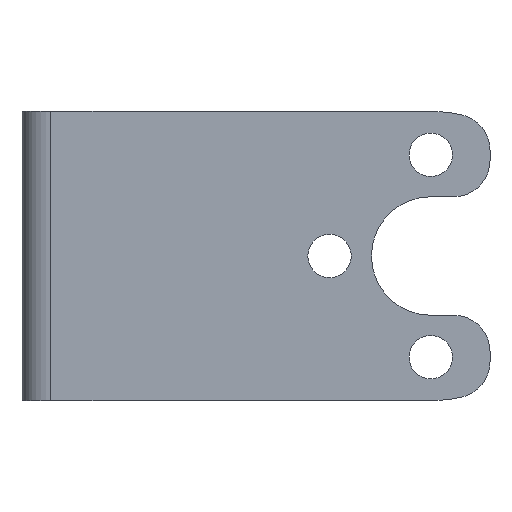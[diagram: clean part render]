
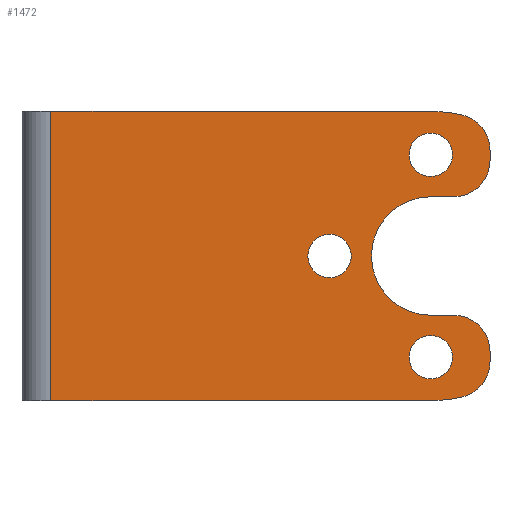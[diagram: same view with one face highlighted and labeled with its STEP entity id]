
A CAD part, front view. The second image highlights one B-rep face of the part: STEP entity #1472.
In plain terms, the highlighted planar face has unit normal (0, -1, 0).
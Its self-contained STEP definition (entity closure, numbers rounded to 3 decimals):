
#418=CARTESIAN_POINT('',(44.8,-52.05,0.));
#419=DIRECTION('',(0.,-1.,0.));
#420=DIRECTION('',(0.,0.,1.));
#421=AXIS2_PLACEMENT_3D('',#418,#419,#420);
#423=CARTESIAN_POINT('',(44.8,-52.05,0.));
#424=DIRECTION('',(0.,-1.,0.));
#425=DIRECTION('',(0.,0.,-1.));
#426=AXIS2_PLACEMENT_3D('',#423,#424,#425);
#428=CARTESIAN_POINT('',(51.8,-52.05,7.));
#429=DIRECTION('',(0.,-1.,0.));
#430=DIRECTION('',(0.,0.,1.));
#431=AXIS2_PLACEMENT_3D('',#428,#429,#430);
#433=CARTESIAN_POINT('',(51.8,-52.05,7.));
#434=DIRECTION('',(0.,-1.,0.));
#435=DIRECTION('',(0.,0.,-1.));
#436=AXIS2_PLACEMENT_3D('',#433,#434,#435);
#438=CARTESIAN_POINT('',(51.8,-52.05,-7.));
#439=DIRECTION('',(0.,-1.,0.));
#440=DIRECTION('',(0.,0.,1.));
#441=AXIS2_PLACEMENT_3D('',#438,#439,#440);
#443=CARTESIAN_POINT('',(51.8,-52.05,-7.));
#444=DIRECTION('',(0.,-1.,0.));
#445=DIRECTION('',(0.,0.,-1.));
#446=AXIS2_PLACEMENT_3D('',#443,#444,#445);
#448=CARTESIAN_POINT('',(53.4,-52.05,7.327));
#449=DIRECTION('',(0.,-1.,0.));
#450=DIRECTION('',(1.,0.,0.));
#451=AXIS2_PLACEMENT_3D('',#448,#449,#450);
#453=DIRECTION('',(0.,0.,-1.));
#454=VECTOR('',#453,0.727);
#455=CARTESIAN_POINT('',(55.9,-52.05,7.327));
#456=LINE('',#455,#454);
#457=CARTESIAN_POINT('',(53.4,-52.05,6.6));
#458=DIRECTION('',(0.,-1.,0.));
#459=DIRECTION('',(0.,0.,-1.));
#460=AXIS2_PLACEMENT_3D('',#457,#458,#459);
#462=DIRECTION('',(-1.,0.,0.));
#463=VECTOR('',#462,1.6);
#464=CARTESIAN_POINT('',(53.4,-52.05,4.1));
#465=LINE('',#464,#463);
#466=CARTESIAN_POINT('',(51.8,-52.05,0.));
#467=DIRECTION('',(0.,-1.,0.));
#468=DIRECTION('',(0.,0.,1.));
#469=AXIS2_PLACEMENT_3D('',#466,#467,#468);
#471=DIRECTION('',(-1.,0.,0.));
#472=VECTOR('',#471,1.6);
#473=CARTESIAN_POINT('',(53.4,-52.05,-4.1));
#474=LINE('',#473,#472);
#475=CARTESIAN_POINT('',(53.4,-52.05,-6.6));
#476=DIRECTION('',(0.,-1.,0.));
#477=DIRECTION('',(1.,0.,0.));
#478=AXIS2_PLACEMENT_3D('',#475,#476,#477);
#480=DIRECTION('',(0.,0.,-1.));
#481=VECTOR('',#480,0.727);
#482=CARTESIAN_POINT('',(55.9,-52.05,-6.6));
#483=LINE('',#482,#481);
#484=CARTESIAN_POINT('',(53.4,-52.05,-7.327));
#485=DIRECTION('',(0.,-1.,0.));
#486=DIRECTION('',(0.213,0.,-0.977));
#487=AXIS2_PLACEMENT_3D('',#484,#485,#486);
#489=CARTESIAN_POINT('',(51.8,-52.05,0.));
#490=DIRECTION('',(0.,1.,0.));
#491=DIRECTION('',(0.213,0.,-0.977));
#492=AXIS2_PLACEMENT_3D('',#489,#490,#491);
#494=DIRECTION('',(1.,0.,0.));
#495=VECTOR('',#494,26.275);
#496=CARTESIAN_POINT('',(25.525,-52.05,-10.));
#497=LINE('',#496,#495);
#498=DIRECTION('',(-1.,0.,0.));
#499=VECTOR('',#498,26.275);
#500=CARTESIAN_POINT('',(51.8,-52.05,10.));
#501=LINE('',#500,#499);
#502=CARTESIAN_POINT('',(51.8,-52.05,0.));
#503=DIRECTION('',(0.,1.,0.));
#504=DIRECTION('',(0.,0.,1.));
#505=AXIS2_PLACEMENT_3D('',#502,#503,#504);
#543=DIRECTION('',(0.,0.,-1.));
#544=VECTOR('',#543,20.);
#545=CARTESIAN_POINT('',(25.525,-52.05,10.));
#546=LINE('',#545,#544);
#858=CARTESIAN_POINT('',(25.525,-52.05,10.));
#860=VERTEX_POINT('',#858);
#864=CARTESIAN_POINT('',(25.525,-52.05,-10.));
#866=VERTEX_POINT('',#864);
#890=CARTESIAN_POINT('',(51.8,-52.05,-10.));
#892=VERTEX_POINT('',#890);
#894=CARTESIAN_POINT('',(51.8,-52.05,10.));
#896=VERTEX_POINT('',#894);
#941=CARTESIAN_POINT('',(44.8,-52.05,1.5));
#942=CARTESIAN_POINT('',(44.8,-52.05,-1.5));
#943=VERTEX_POINT('',#941);
#944=VERTEX_POINT('',#942);
#945=CARTESIAN_POINT('',(51.8,-52.05,8.5));
#946=CARTESIAN_POINT('',(51.8,-52.05,5.5));
#947=VERTEX_POINT('',#945);
#948=VERTEX_POINT('',#946);
#949=CARTESIAN_POINT('',(51.8,-52.05,-5.5));
#950=CARTESIAN_POINT('',(51.8,-52.05,-8.5));
#951=VERTEX_POINT('',#949);
#952=VERTEX_POINT('',#950);
#981=CARTESIAN_POINT('',(51.8,-52.05,4.1));
#982=CARTESIAN_POINT('',(51.8,-52.05,-4.1));
#983=VERTEX_POINT('',#981);
#984=VERTEX_POINT('',#982);
#1025=CARTESIAN_POINT('',(55.9,-52.05,7.327));
#1026=CARTESIAN_POINT('',(53.933,-52.05,9.77));
#1027=VERTEX_POINT('',#1025);
#1028=VERTEX_POINT('',#1026);
#1033=CARTESIAN_POINT('',(53.4,-52.05,4.1));
#1034=CARTESIAN_POINT('',(55.9,-52.05,6.6));
#1035=VERTEX_POINT('',#1033);
#1036=VERTEX_POINT('',#1034);
#1041=CARTESIAN_POINT('',(55.9,-52.05,-6.6));
#1042=CARTESIAN_POINT('',(53.4,-52.05,-4.1));
#1043=VERTEX_POINT('',#1041);
#1044=VERTEX_POINT('',#1042);
#1049=CARTESIAN_POINT('',(53.933,-52.05,-9.77));
#1050=CARTESIAN_POINT('',(55.9,-52.05,-7.327));
#1051=VERTEX_POINT('',#1049);
#1052=VERTEX_POINT('',#1050);
#1420=CARTESIAN_POINT('',(0.,-52.05,0.));
#1421=DIRECTION('',(0.,-1.,0.));
#1422=DIRECTION('',(-1.,0.,0.));
#1423=AXIS2_PLACEMENT_3D('',#1420,#1421,#1422);
#1424=PLANE('',#1423);
#1426=ORIENTED_EDGE('',*,*,#1425,.F.);
#1428=ORIENTED_EDGE('',*,*,#1427,.T.);
#1430=ORIENTED_EDGE('',*,*,#1429,.F.);
#1432=ORIENTED_EDGE('',*,*,#1431,.T.);
#1434=ORIENTED_EDGE('',*,*,#1433,.T.);
#1436=ORIENTED_EDGE('',*,*,#1435,.F.);
#1438=ORIENTED_EDGE('',*,*,#1437,.F.);
#1440=ORIENTED_EDGE('',*,*,#1439,.T.);
#1442=ORIENTED_EDGE('',*,*,#1441,.F.);
#1444=ORIENTED_EDGE('',*,*,#1443,.T.);
#1446=ORIENTED_EDGE('',*,*,#1445,.F.);
#1448=ORIENTED_EDGE('',*,*,#1447,.F.);
#1450=ORIENTED_EDGE('',*,*,#1449,.F.);
#1452=ORIENTED_EDGE('',*,*,#1451,.T.);
#1453=EDGE_LOOP('',(#1426,#1428,#1430,#1432,#1434,#1436,#1438,#1440,#1442,#1444,
#1446,#1448,#1450,#1452));
#1454=FACE_OUTER_BOUND('',#1453,.F.);
#1456=ORIENTED_EDGE('',*,*,#1455,.T.);
#1458=ORIENTED_EDGE('',*,*,#1457,.T.);
#1459=EDGE_LOOP('',(#1456,#1458));
#1460=FACE_BOUND('',#1459,.F.);
#1462=ORIENTED_EDGE('',*,*,#1461,.T.);
#1464=ORIENTED_EDGE('',*,*,#1463,.T.);
#1465=EDGE_LOOP('',(#1462,#1464));
#1466=FACE_BOUND('',#1465,.F.);
#1467=ORIENTED_EDGE('',*,*,#1410,.T.);
#1469=ORIENTED_EDGE('',*,*,#1468,.T.);
#1470=EDGE_LOOP('',(#1467,#1469));
#1471=FACE_BOUND('',#1470,.F.);
#422=CIRCLE('',#421,1.5);
#427=CIRCLE('',#426,1.5);
#432=CIRCLE('',#431,1.5);
#437=CIRCLE('',#436,1.5);
#442=CIRCLE('',#441,1.5);
#447=CIRCLE('',#446,1.5);
#452=CIRCLE('',#451,2.5);
#461=CIRCLE('',#460,2.5);
#470=CIRCLE('',#469,4.1);
#479=CIRCLE('',#478,2.5);
#488=CIRCLE('',#487,2.5);
#493=CIRCLE('',#492,10.);
#506=CIRCLE('',#505,10.);
#1410=EDGE_CURVE('',#951,#952,#442,.T.);
#1425=EDGE_CURVE('',#1027,#1028,#452,.T.);
#1427=EDGE_CURVE('',#1027,#1036,#456,.T.);
#1429=EDGE_CURVE('',#1035,#1036,#461,.T.);
#1431=EDGE_CURVE('',#1035,#983,#465,.T.);
#1433=EDGE_CURVE('',#983,#984,#470,.T.);
#1435=EDGE_CURVE('',#1044,#984,#474,.T.);
#1437=EDGE_CURVE('',#1043,#1044,#479,.T.);
#1439=EDGE_CURVE('',#1043,#1052,#483,.T.);
#1441=EDGE_CURVE('',#1051,#1052,#488,.T.);
#1443=EDGE_CURVE('',#1051,#892,#493,.T.);
#1445=EDGE_CURVE('',#866,#892,#497,.T.);
#1447=EDGE_CURVE('',#860,#866,#546,.T.);
#1449=EDGE_CURVE('',#896,#860,#501,.T.);
#1451=EDGE_CURVE('',#896,#1028,#506,.T.);
#1455=EDGE_CURVE('',#943,#944,#422,.T.);
#1457=EDGE_CURVE('',#944,#943,#427,.T.);
#1461=EDGE_CURVE('',#947,#948,#432,.T.);
#1463=EDGE_CURVE('',#948,#947,#437,.T.);
#1468=EDGE_CURVE('',#952,#951,#447,.T.);
#1472=ADVANCED_FACE('',(#1454,#1460,#1466,#1471),#1424,.T.);
